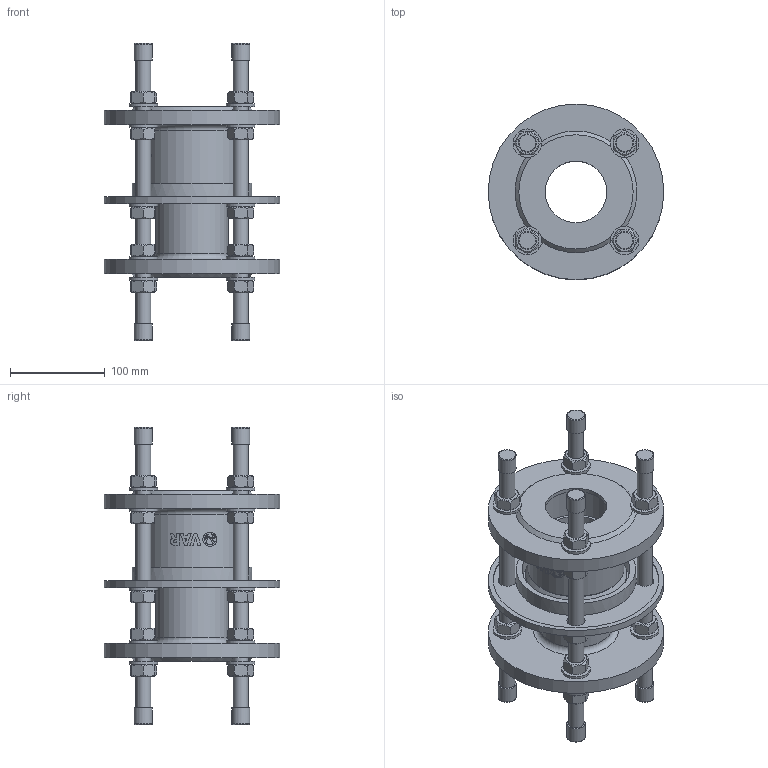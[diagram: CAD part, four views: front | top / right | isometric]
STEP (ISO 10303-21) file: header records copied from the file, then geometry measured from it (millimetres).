
FILE_DESCRIPTION(('STEP AP242'), '1');
FILE_NAME('Ìîíòàæíàÿ âñòàâêà', '', ('UNSPECIFIED'), ('UNSPECIFIED'), 'C3D Converter', 'C3D Toolkit', '');
FILE_SCHEMA(('AP242_MANAGED_MODEL_BASED_3D_ENGINEERING_MIM_LF { 1 0 10303 442 1 1 4 }'));
Length unit declared in the file: millimetre
Products named in the file (9): ШМ.М16.310
Assembly tree (56 placements, depth 2):
  (unnamed)
    (unnamed)
    (unnamed)
    (unnamed)
    (unnamed)
    (unnamed)  x20
    (unnamed)  x20
    ШМ.М16.310  x4
    (unnamed)  x8
Bounding box: 185 x 185 x 313.2 mm (x, y, z)
Volume: 1650064.7 mm3; surface area: 450957.7 mm2
Topology: 60 solids, 60 shells, 510 faces, 1092 edges, 706 vertices
Faces by surface type: plane 280, cylinder 115, cone 94, extrusion 11, torus 10
Full cylindrical faces by diameter (mm): 14.848 x1, 16 x32, 17 x20, 19 x12, 19.2 x8, 30 x20, 65 x2, 77 x2, 83 x2, 101 x1, 107 x1, 114 x1, 126 x1, 174.5 x1, 185 x3
Entity records: 9751 total; most frequent: CARTESIAN_POINT 4806, DIRECTION 678, ORIENTED_EDGE 520, AXIS2_PLACEMENT_3D 305, EDGE_CURVE 260, EDGE_LOOP 225, VERTEX_POINT 201, FACE_BOUND 144
